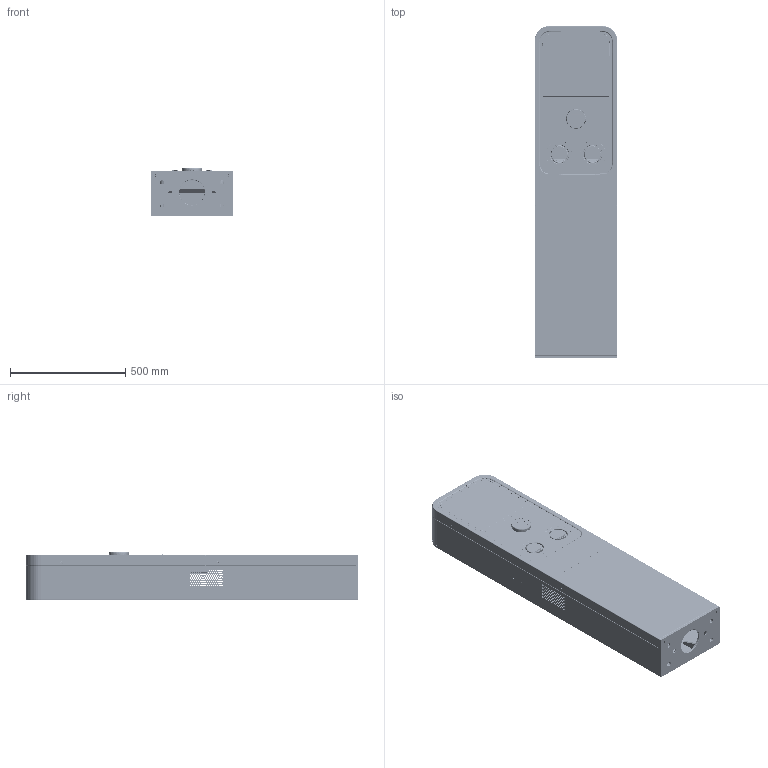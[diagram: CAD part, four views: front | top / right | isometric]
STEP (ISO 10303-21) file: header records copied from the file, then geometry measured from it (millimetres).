
FILE_DESCRIPTION((''),'2;1');
FILE_NAME('EC2223_EU_ASM','2026-01-16T10:56:54',('A24651'),(''),'CREO PARAMETRIC BY PTC INC, 2018100','CREO PARAMETRIC BY PTC INC, 2018100','');
FILE_SCHEMA(('CONFIG_CONTROL_DESIGN','GEOMETRIC_VALIDATION_PROPERTIES_MIM'));
Products named in the file (133): AUT81010940; AUT81010824; AUT61010551_ASM; AUT81020615; AUT81350511; AUT81350512; AUT81200475; AUT81330525; AUT81410519; AUT81470616; AUT81410457; AUT81370641; AC_ULTRA_4G_WIRE; AC_ULTRA_4G_WIRE_ASM; AUT81010965-1; NUT_M3X8; NUT_4X10; CU_NUT_ASSY-1_ASM; 00_EC2211_NFC_PCBA_ASM; AUT81010965-1_ASM; AUT61010519_ASM; AUT81010934; AUT81010934-1; AUT81010934_ASM; AUT81050427; AUT81230478; AUT81010936; ONYX_3D; EC2223_LED_PCB; LED_67-23R6GHBHC-B01-2T; WF20010-05201; FPC05010-43200_114_1; FPC05010-43200_114_2; FPC05010-43200_114_ASM; EC2223_LED_ASM; AUT81350451; AUT81350533; AUT81050432; AUT81350584; NUT_4X6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
Assembly tree (332 placements, depth 7):
  EC2223_EU_ASM
    00-EC2223-EU_ASM
      AUT61010551_ASM
        AUT81010940
        AUT81010824
      AUT61010519_ASM
        AUT81020615
        AUT81350511
        AUT81350512
        AUT81200475
        AUT81330525
        AUT81410519  x12
        AUT81470616  x10
        AUT81410457  x2
        AC_ULTRA_4G_WIRE_ASM
          AUT81370641
          AC_ULTRA_4G_WIRE
        AUT81010965-1_ASM
          AUT81010965-1
          CU_NUT_ASSY-1_ASM
            NUT_M3X8  x35
            NUT_4X10  x4
          00_EC2211_NFC_PCBA_ASM
      AUT61010545_AF1_ASM
        AUT81010934_ASM
          AUT81010934
          AUT81010934-1
        AUT81050427  x2
        AUT81230478  x2
        AUT81010936  x2
        ONYX_3D
        EC2223_LED_ASM  x2
          EC2223_LED_PCB
          LED_67-23R6GHBHC-B01-2T
          WF20010-05201
          FPC05010-43200_114_ASM
            FPC05010-43200_114_1
            FPC05010-43200_114_2
        AUT81350451  x8
        AUT81350533  x2
        AUT61050410_ASM
          AUT81050432
          AUT81350584
          NUT_4X6  x3
        AUT81410519  x3
      AUT61010546_ASM
        AUT81160559
        AUT81060444_ASM  x2
          AUT81060444
          ADHESIVE
        AUT81350515
        AUT81060446_ASM  x2
          AUT81060446
          ADHESIVE1
        AUT81011087_ASM
          AUT81011087
          NUT_4X10  x12
          NUT_5X8  x21
          NUT_M3X8  x4
        AUT81350508
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Bounding box: 360 x 1440 x 208.05 mm (x, y, z)
Volume: 8855553.2 mm3; surface area: 7234873.8 mm2
Topology: 330 solids, 334 shells, 37036 faces, 98566 edges, 62958 vertices
Faces by surface type: plane 20876, cylinder 9900, bspline 2557, cone 1810, torus 875, extrusion 698, sphere 226, revolution 94
Entity records: 1169414 total; most frequent: CARTESIAN_POINT 333992, ORIENTED_EDGE 145532, DIRECTION 132682, EDGE_CURVE 72766, VECTOR 50486, LINE 49850, VERTEX_POINT 46933, PRESENTATION_STYLE_ASSIGNMENT 44066
